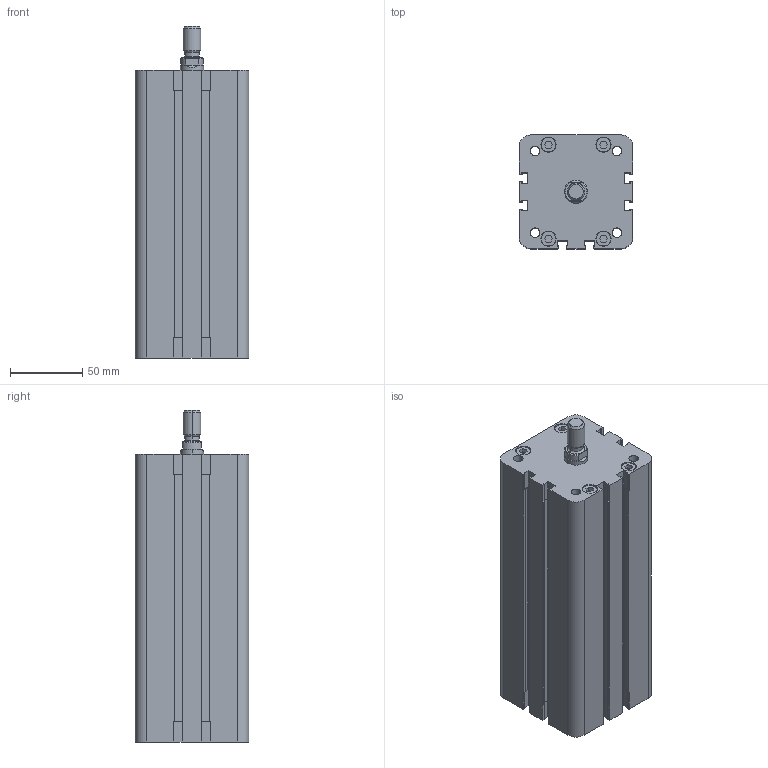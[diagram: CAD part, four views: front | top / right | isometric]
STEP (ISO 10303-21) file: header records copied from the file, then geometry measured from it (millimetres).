
FILE_DESCRIPTION (( 'STEP AP203' ), '1' );
FILE_NAME ('WFM0630150A.step', '2013-04-22T07:15:14', ( '' ), ( '' ), 'SwSTEP 2.0', 'SolidWorks 2012', '' );
FILE_SCHEMA (( 'CONFIG_CONTROL_DESIGN' ));
Length unit declared in the file: millimetre
Products named in the file (1): WFM0630150A
Bounding box: 78.5 x 78.5 x 229.5 mm (x, y, z)
Volume: 1146234.5 mm3; surface area: 109569.4 mm2
Topology: 1 solids, 1 shells, 464 faces, 1272 edges, 839 vertices
Faces by surface type: plane 231, cylinder 211, cone 18, torus 4
Entity records: 14988 total; most frequent: CARTESIAN_POINT 2730, DIRECTION 2611, ORIENTED_EDGE 2544, EDGE_CURVE 1272, AXIS2_PLACEMENT_3D 896, VERTEX_POINT 839, LINE 819, VECTOR 819
